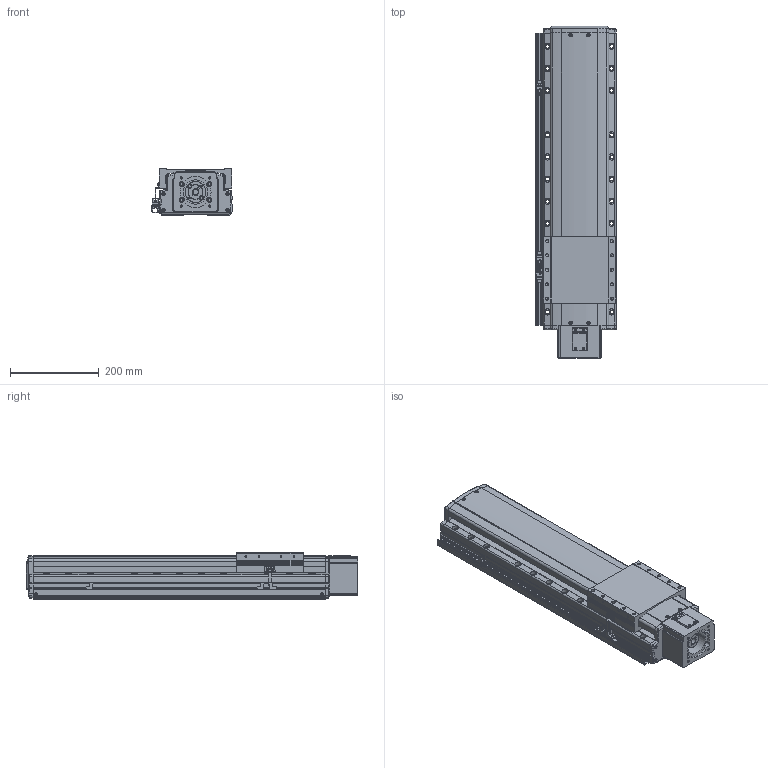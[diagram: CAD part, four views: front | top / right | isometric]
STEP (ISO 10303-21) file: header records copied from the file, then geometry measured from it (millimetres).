
FILE_DESCRIPTION(('STEP AP214'),'1');
FILE_NAME('Z:/Web/3D/PSA165/STP/PSA165-400 (3D)/PSA165ㅁㅁ-400S+3SL.stp','2014-06-23T11:05:26',(' '),(' '),'Spatial InterOp 3D',' ',' ');
FILE_SCHEMA(('automotive_design'));
Length unit declared in the file: millimetre
Products named in the file (85): 스크루 : Round - M4.0 x 12.0; RRCV-PA160; BASE; 스크루 : Round - M4.0 x 10.0; RN15; Screw 20; SLIDE; FRCV; 스크루 : Socket - M6.0 x 25.0; MTHZ-SAN150-80A; SSFX-SAN65; CPLCV-SAN65; 스크루 : Round - M3.0 x 6.0; SDWA47C(2); SDWA47C(3-1); SDWA47C(3); SDWA47C(1); SDWA47C(4); SDWA47C(5); M3.0 x 6.0; SRL-16x17-360L; SGD-SAN150; EE-SX674; SBK-SX674-352; BHCS M4.0 x 10.0
Bounding box: 181 x 749.8 x 104 mm (x, y, z)
Volume: 10038330.1 mm3; surface area: 858384.4 mm2
Topology: 85 solids, 85 shells, 3465 faces, 9195 edges, 5941 vertices
Faces by surface type: plane 1739, cylinder 1220, cone 377, sphere 70, bspline 35, torus 24
Entity records: 141445 total; most frequent: CARTESIAN_POINT 24100, DIRECTION 19139, ORIENTED_EDGE 18094, EDGE_CURVE 9047, AXIS2_PLACEMENT_3D 6830, VERTEX_POINT 5941, LINE 5479, VECTOR 5479
